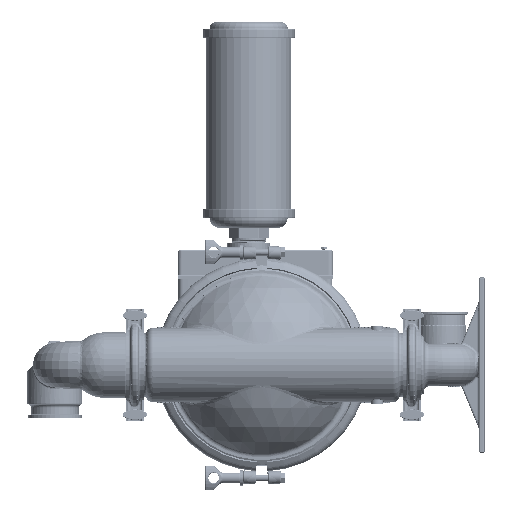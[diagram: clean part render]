
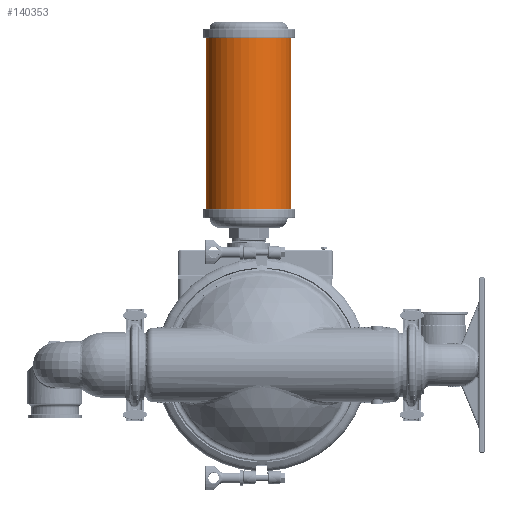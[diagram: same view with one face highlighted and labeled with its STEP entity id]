
A CAD part, left-side view. The second image highlights one B-rep face of the part: STEP entity #140353.
In plain terms, the highlighted cylindrical face has radius 61.722 mm (diameter 123.444 mm), a partial arc.
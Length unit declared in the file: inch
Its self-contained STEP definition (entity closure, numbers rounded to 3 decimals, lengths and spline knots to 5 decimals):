
#12336 = DIRECTION ( 'NONE',  ( 0., 1., 0. ) ) ;
#12895 = CARTESIAN_POINT ( 'NONE',  ( 0., 3.18, 18.685 ) ) ;
#16885 = EDGE_LOOP ( 'NONE', ( #169681, #78120, #292234, #68410 ) ) ;
#43904 = LINE ( 'NONE', #247528, #621699 ) ;
#68410 = ORIENTED_EDGE ( 'NONE', *, *, #214033, .F. ) ;
#78120 = ORIENTED_EDGE ( 'NONE', *, *, #129041, .T. ) ;
#83260 = CYLINDRICAL_SURFACE ( 'NONE', #373301, 2.43 ) ;
#96328 = CARTESIAN_POINT ( 'NONE',  ( 0., -1.68, 8.905 ) ) ;
#114544 = VERTEX_POINT ( 'NONE', #305573 ) ;
#129041 = EDGE_CURVE ( 'NONE', #114544, #217945, #597232, .T. ) ;
#134068 = VECTOR ( 'NONE', #300034, 39.37008 ) ;
#140353 = ADVANCED_FACE ( 'NONE', ( #383818 ), #83260, .T. ) ;
#169681 = ORIENTED_EDGE ( 'NONE', *, *, #508621, .T. ) ;
#179956 = CARTESIAN_POINT ( 'NONE',  ( 0., 3.18, 8.905 ) ) ;
#183448 = DIRECTION ( 'NONE',  ( 0., -1., 0. ) ) ;
#186074 = CARTESIAN_POINT ( 'NONE',  ( 0., 0.75, 18.685 ) ) ;
#214033 = EDGE_CURVE ( 'NONE', #235298, #411420, #43904, .T. ) ;
#217945 = VERTEX_POINT ( 'NONE', #412724 ) ;
#232915 = DIRECTION ( 'NONE',  ( 0., 0., 1. ) ) ;
#235298 = VERTEX_POINT ( 'NONE', #179956 ) ;
#247528 = CARTESIAN_POINT ( 'NONE',  ( 0., 3.18, 8.905 ) ) ;
#269317 = DIRECTION ( 'NONE',  ( 0., 0., 1. ) ) ;
#292234 = ORIENTED_EDGE ( 'NONE', *, *, #345763, .F. ) ;
#300034 = DIRECTION ( 'NONE',  ( 0., 0., 1. ) ) ;
#305573 = CARTESIAN_POINT ( 'NONE',  ( 0., -1.68, 8.905 ) ) ;
#345763 = EDGE_CURVE ( 'NONE', #411420, #217945, #447580, .T. ) ;
#354286 = DIRECTION ( 'NONE',  ( 0., 0., 1. ) ) ;
#373301 = AXIS2_PLACEMENT_3D ( 'NONE', #427317, #530840, #183448 ) ;
#383818 = FACE_OUTER_BOUND ( 'NONE', #16885, .T. ) ;
#411420 = VERTEX_POINT ( 'NONE', #12895 ) ;
#412724 = CARTESIAN_POINT ( 'NONE',  ( 0., -1.68, 18.685 ) ) ;
#422299 = AXIS2_PLACEMENT_3D ( 'NONE', #469708, #269317, #12336 ) ;
#427317 = CARTESIAN_POINT ( 'NONE',  ( 0., 0.75, 20.1725 ) ) ;
#447580 = CIRCLE ( 'NONE', #458565, 2.43 ) ;
#458565 = AXIS2_PLACEMENT_3D ( 'NONE', #186074, #232915, #493238 ) ;
#469708 = CARTESIAN_POINT ( 'NONE',  ( 0., 0.75, 8.905 ) ) ;
#493238 = DIRECTION ( 'NONE',  ( 0., 1., 0. ) ) ;
#508621 = EDGE_CURVE ( 'NONE', #235298, #114544, #592893, .T. ) ;
#530840 = DIRECTION ( 'NONE',  ( 0., 0., -1. ) ) ;
#592893 = CIRCLE ( 'NONE', #422299, 2.43 ) ;
#597232 = LINE ( 'NONE', #96328, #134068 ) ;
#621699 = VECTOR ( 'NONE', #354286, 39.37008 ) ;
